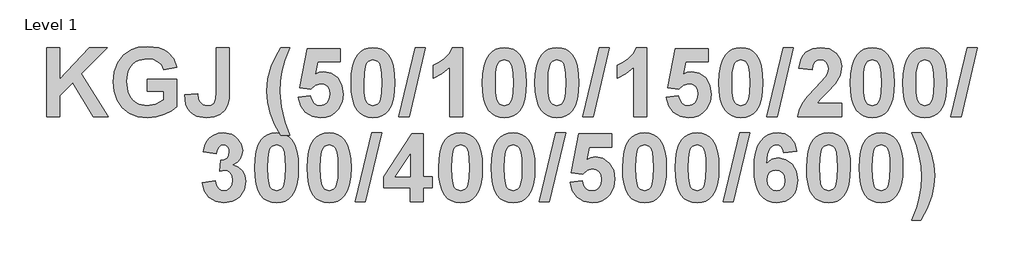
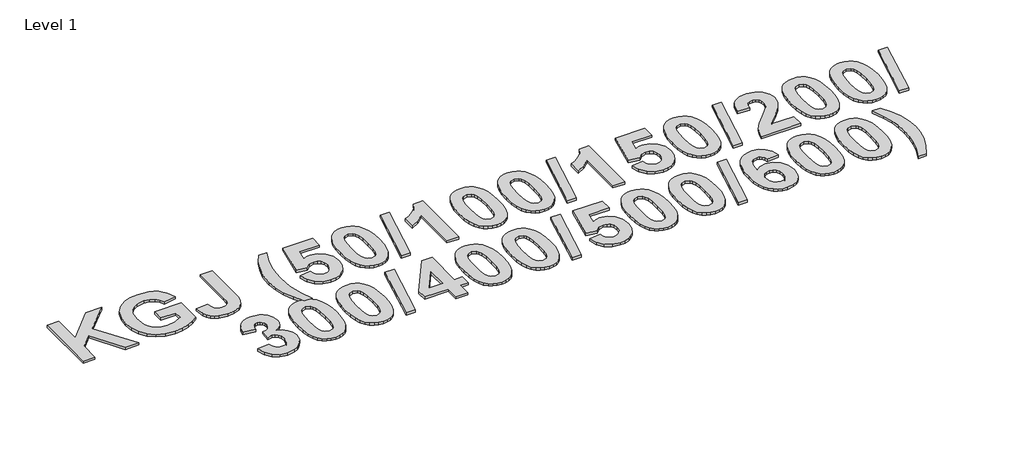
# One storey, part 20 of 42: 1 proxy.
"""IFC4 building model written with IfcOpenShell, lengths in millimetres."""

from ifc_helpers import new_model, si_unit, origin, origin_with_axes, place, context, project, spatial, polyline, outline, extrude, element, save

model = new_model("IFC4")

# Units and contexts
model_context = context("Model", 3, world=origin())
ifc_project = project(units=[si_unit("LENGTHUNIT", "METRE", prefix="MILLI")], contexts=[model_context])

# Site, building, storey
site = spatial("IfcSite", under=ifc_project)
building = spatial("IfcBuilding", under=site)
storey = spatial("IfcBuildingStorey", under=building, Name="Level 1", Elevation=0.0)

# Proxy
placement = place(None, origin())
element("IfcBuildingElementProxy", 1, Name="300mm Arial 2", ObjectType="300mm Arial 2", at=placement, inside=storey, context=model_context, shape_type="SweptSolid", body=[
    extrude(outline(polyline([(-16754.0265891, 14366.2760859), (-16754.0265891, 14621.3409359), (-16705.4428082, 14621.3409359), (-16705.4428082, 14505.0688143), (-16596.0027808, 14621.3409359), (-16529.3266022, 14621.3409359), (-16625.8615628, 14523.9203335), (-16525.2779538, 14366.2760859), (-16582.0855519, 14366.2760859), (-16657.4283684, 14491.9739671), (-16705.4428082, 14443.4534463), (-16705.4428082, 14366.2760859), (-16754.0265891, 14366.2760859)])), origin_with_axes(), (0.0, 0.0, 1.0), 10.0),
    extrude(outline(polyline([(-16381.5509352, 14459.3949994), (-16381.5509352, 14503.930132), (-16272.237428, 14503.930132), (-16272.237428, 14402.2078406), (-16291.7531786, 14387.2863571), (-16318.417324, 14374.2784926), (-16348.8454472, 14365.2402013), (-16379.6531312, 14362.2274375), (-16416.4863428, 14366.4184212), (-16448.2903739, 14378.9913724), (-16473.9423572, 14399.3532272), (-16492.3194253, 14426.9109219), (-16503.3741333, 14459.434537), (-16507.059036, 14494.6941528), (-16502.8917748, 14532.2153182), (-16490.3899913, 14565.3240895), (-16469.8541712, 14592.6287438), (-16441.5847999, 14612.737558), (-16414.0982728, 14622.2265778), (-16380.6020332, 14625.3895843), (-16338.399618, 14620.2813287), (-16321.1829779, 14613.8960092), (-16306.5560493, 14604.9565619), (-16284.6443213, 14580.6172263), (-16272.237428, 14548.4652645), (-16320.821209, 14540.3679677), (-16328.997581, 14557.1714401), (-16342.1398733, 14570.0053393), (-16359.7103748, 14578.1421737), (-16381.1713744, 14580.8544518), (-16412.9754055, 14575.5564158), (-16426.1611891, 14568.9338708), (-16437.5361515, 14559.6623078), (-16446.6970093, 14547.7812643), (-16453.2404791, 14533.330278), (-16458.475255, 14496.718477), (-16453.2721092, 14457.3627677), (-16446.7681769, 14441.9015962), (-16437.6626718, 14429.2515468), (-16426.4458597, 14419.4126195), (-16413.6080068, 14412.3848142), (-16383.0691783, 14406.7625701), (-16349.6361989, 14412.9304329), (-16320.821209, 14427.891454), (-16320.821209, 14459.3949994), (-16381.5509352, 14459.3949994)])), origin_with_axes(), (0.0, 0.0, 1.0), 10.0),
    extrude(outline(polyline([(-16126.4860852, 14621.3409359), (-16077.9023042, 14621.3409359), (-16077.9023042, 14460.0908609), (-16079.3256572, 14432.0982527), (-16083.5957161, 14411.3805597), (-16094.2866783, 14391.358728), (-16111.1771334, 14375.7018455), (-16134.3619716, 14365.5960395), (-16163.936083, 14362.2274375), (-16197.9067736, 14367.6282712), (-16211.570962, 14374.3793134), (-16223.0210458, 14383.8307724), (-16232.0830596, 14395.8956656), (-16238.5830381, 14410.4870103), (-16243.8968892, 14447.2490542), (-16195.3131082, 14451.2977026), (-16193.0831886, 14432.6675939), (-16188.2912336, 14420.4267584), (-16176.8727799, 14410.1786172), (-16160.7098163, 14406.7625701), (-16144.7287256, 14409.2139001), (-16134.2354513, 14416.5678904), (-16128.4234267, 14431.6238017), (-16126.4860852, 14457.1808948), (-16126.4860852, 14621.3409359)])), origin_with_axes(), (0.0, 0.0, 1.0), 10.0),
    extrude(outline(polyline([(-15855.2266415, 14297.4490629), (-15887.6158288, 14297.4490629), (-15910.2866785, 14337.1210729), (-15926.8054803, 14378.327141), (-15936.8875637, 14419.6280993), (-15940.2482582, 14459.5847798), (-15936.1363497, 14506.9824333), (-15923.800624, 14551.7547913), (-15907.6060304, 14588.0344767), (-15887.6158288, 14621.3409359), (-15855.2266415, 14621.3409359), (-15872.7892355, 14574.1014328), (-15883.851851, 14534.4847754), (-15889.7113207, 14497.6041188), (-15891.6644773, 14458.5726177), (-15886.9832275, 14401.92317), (-15874.1414209, 14346.8552256), (-15855.2266415, 14297.4490629)])), origin_with_axes(), (0.0, 0.0, 1.0), 10.0),
    extrude(outline(polyline([(-15822.8374542, 14438.0763351), (-15778.3023217, 14443.2004058), (-15774.1587831, 14428.1286795), (-15765.9033359, 14416.5678904), (-15754.8011829, 14409.2139001), (-15742.1175265, 14406.7625701), (-15727.9235345, 14409.364143), (-15716.0859824, 14417.1688617), (-15708.0914833, 14430.2083563), (-15705.4266503, 14448.5142568), (-15707.9017029, 14465.6735675), (-15715.3268609, 14477.9302179), (-15726.721592, 14485.2842082), (-15741.1053644, 14487.7355383), (-15759.9252535, 14482.6747278), (-15776.6575583, 14467.4922962), (-15818.7888058, 14473.7550493), (-15790.4482669, 14617.2922875), (-15668.9888146, 14617.2922875), (-15668.9888146, 14568.7085066), (-15751.1637253, 14568.7085066), (-15760.9690457, 14522.3388302), (-15745.4861285, 14529.7877107), (-15729.6552806, 14532.2706708), (-15701.5361522, 14526.5219064), (-15678.0350134, 14509.2756131), (-15662.1409053, 14482.8566007), (-15656.8428693, 14449.589679), (-15661.2552635, 14420.6639839), (-15674.492446, 14394.9961856), (-15687.7098597, 14380.6598583), (-15703.2599908, 14370.4196245), (-15721.1428392, 14364.2754843), (-15741.3584049, 14362.2274375), (-15772.3637769, 14367.3673232), (-15797.0589507, 14382.7869802), (-15814.273614, 14406.8890903), (-15822.8374542, 14438.0763351)])), origin_with_axes(), (0.0, 0.0, 1.0), 10.0),
    extrude(outline(polyline([(-15547.5293622, 14621.3409359), (-15530.3977279, 14619.6961725), (-15515.2508801, 14614.7618823), (-15502.088819, 14606.5380652), (-15490.9115446, 14595.0247212), (-15480.2561662, 14576.8967398), (-15472.6451816, 14553.6367802), (-15468.0785909, 14525.2448425), (-15466.5563939, 14491.7209266), (-15468.0864984, 14458.2286407), (-15472.6768117, 14429.8050729), (-15480.3273338, 14406.4502232), (-15491.0380648, 14388.1640914), (-15502.1599867, 14376.8168053), (-15515.2825102, 14368.711601), (-15530.4056354, 14363.8484784), (-15547.5293622, 14362.2274375), (-15564.8369388, 14364.0066287), (-15580.385093, 14369.3442023), (-15594.1738247, 14378.2401583), (-15606.2031341, 14390.6944967), (-15615.9590325, 14407.7154258), (-15622.9275314, 14430.311154), (-15627.1086307, 14458.4816813), (-15628.5023304, 14492.2270076), (-15626.972226, 14525.5532356), (-15622.3819127, 14553.8581907), (-15614.7313906, 14577.1418728), (-15604.0206596, 14595.404282), (-15592.8987377, 14606.7515681), (-15579.7762142, 14614.8567724), (-15564.653089, 14619.7198951), (-15547.5293622, 14621.3409359)]), holes=[polyline([(-15547.5293622, 14576.8058034), (-15563.7239558, 14571.4603223), (-15570.049969, 14563.9877192), (-15574.7312187, 14552.2608724), (-15578.6217168, 14528.1113172), (-15579.9185495, 14491.7209266), (-15578.7640521, 14455.8128945), (-15575.3005599, 14433.2369351), (-15570.0736915, 14419.9839375), (-15563.6290657, 14412.044791), (-15547.5293622, 14406.7625701), (-15531.3347685, 14412.1080512), (-15525.0087554, 14419.5806542), (-15520.3275057, 14431.3075011), (-15516.4370076, 14455.330536), (-15515.1401749, 14491.7209266), (-15516.2946723, 14527.5894211), (-15519.7581645, 14550.173288), (-15524.9850329, 14563.4658232), (-15531.4296587, 14571.4603223), (-15547.5293622, 14576.8058034)])]), origin_with_axes(), (0.0, 0.0, 1.0), 10.0),
    extrude(outline(polyline([(-15451.2474421, 14366.2760859), (-15390.5177159, 14621.3409359), (-15353.1942384, 14621.3409359), (-15413.9239646, 14366.2760859), (-15451.2474421, 14366.2760859)])), origin_with_axes(), (0.0, 0.0, 1.0), 10.0),
    extrude(outline(polyline([(-15215.5401924, 14366.2760859), (-15264.1239733, 14366.2760859), (-15264.1239733, 14548.5917848), (-15292.1798416, 14524.7110851), (-15324.8536995, 14507.9787804), (-15324.8536995, 14556.5625613), (-15305.3853941, 14565.6482977), (-15284.3039553, 14580.3800008), (-15265.8478119, 14599.3975778), (-15254.2553928, 14621.3409359), (-15215.5401924, 14621.3409359), (-15215.5401924, 14366.2760859)])), origin_with_axes(), (0.0, 0.0, 1.0), 10.0),
    extrude(outline(polyline([(-15061.6915527, 14621.3409359), (-15044.5599183, 14619.6961725), (-15029.4130706, 14614.7618823), (-15016.2510095, 14606.5380652), (-15005.0737351, 14595.0247212), (-14994.4183567, 14576.8967398), (-14986.8073721, 14553.6367802), (-14982.2407814, 14525.2448425), (-14980.7185844, 14491.7209266), (-14982.2486889, 14458.2286407), (-14986.8390022, 14429.8050729), (-14994.4895243, 14406.4502232), (-15005.2002553, 14388.1640914), (-15016.3221772, 14376.8168053), (-15029.4447007, 14368.711601), (-15044.5678259, 14363.8484784), (-15061.6915527, 14362.2274375), (-15078.9991293, 14364.0066287), (-15094.5472835, 14369.3442023), (-15108.3360152, 14378.2401583), (-15120.3653246, 14390.6944967), (-15130.121223, 14407.7154258), (-15137.0897219, 14430.311154), (-15141.2708212, 14458.4816813), (-15142.6645209, 14492.2270076), (-15141.1344165, 14525.5532356), (-15136.5441032, 14553.8581907), (-15128.8935811, 14577.1418728), (-15118.1828501, 14595.404282), (-15107.0609282, 14606.7515681), (-15093.9384047, 14614.8567724), (-15078.8152795, 14619.7198951), (-15061.6915527, 14621.3409359)]), holes=[polyline([(-15061.6915527, 14576.8058034), (-15077.8861463, 14571.4603223), (-15084.2121595, 14563.9877192), (-15088.8934092, 14552.2608724), (-15092.7839073, 14528.1113172), (-15094.08074, 14491.7209266), (-15092.9262426, 14455.8128945), (-15089.4627504, 14433.2369351), (-15084.235882, 14419.9839375), (-15077.7912561, 14412.044791), (-15061.6915527, 14406.7625701), (-15045.496959, 14412.1080512), (-15039.1709459, 14419.5806542), (-15034.4896962, 14431.3075011), (-15030.5991981, 14455.330536), (-15029.3023654, 14491.7209266), (-15030.4568628, 14527.5894211), (-15033.920355, 14550.173288), (-15039.1472234, 14563.4658232), (-15045.5918492, 14571.4603223), (-15061.6915527, 14576.8058034)])]), origin_with_axes(), (0.0, 0.0, 1.0), 10.0),
    extrude(outline(polyline([(-14867.3564289, 14621.3409359), (-14850.2247945, 14619.6961725), (-14835.0779468, 14614.7618823), (-14821.9158857, 14606.5380652), (-14810.7386112, 14595.0247212), (-14800.0832329, 14576.8967398), (-14792.4722483, 14553.6367802), (-14787.9056576, 14525.2448425), (-14786.3834606, 14491.7209266), (-14787.9135651, 14458.2286407), (-14792.5038784, 14429.8050729), (-14800.1544005, 14406.4502232), (-14810.8651315, 14388.1640914), (-14821.9870534, 14376.8168053), (-14835.1095769, 14368.711601), (-14850.2327021, 14363.8484784), (-14867.3564289, 14362.2274375), (-14884.6640055, 14364.0066287), (-14900.2121597, 14369.3442023), (-14914.0008914, 14378.2401583), (-14926.0302008, 14390.6944967), (-14935.7860992, 14407.7154258), (-14942.7545981, 14430.311154), (-14946.9356974, 14458.4816813), (-14948.3293971, 14492.2270076), (-14946.7992927, 14525.5532356), (-14942.2089794, 14553.8581907), (-14934.5584573, 14577.1418728), (-14923.8477263, 14595.404282), (-14912.7258044, 14606.7515681), (-14899.6032809, 14614.8567724), (-14884.4801557, 14619.7198951), (-14867.3564289, 14621.3409359)]), holes=[polyline([(-14867.3564289, 14576.8058034), (-14883.5510225, 14571.4603223), (-14889.8770357, 14563.9877192), (-14894.5582854, 14552.2608724), (-14898.4487835, 14528.1113172), (-14899.7456162, 14491.7209266), (-14898.5911188, 14455.8128945), (-14895.1276266, 14433.2369351), (-14889.9007582, 14419.9839375), (-14883.4561323, 14412.044791), (-14867.3564289, 14406.7625701), (-14851.1618352, 14412.1080512), (-14844.8358221, 14419.5806542), (-14840.1545724, 14431.3075011), (-14836.2640743, 14455.330536), (-14834.9672416, 14491.7209266), (-14836.121739, 14527.5894211), (-14839.5852312, 14550.173288), (-14844.8120995, 14563.4658232), (-14851.2567254, 14571.4603223), (-14867.3564289, 14576.8058034)])]), origin_with_axes(), (0.0, 0.0, 1.0), 10.0),
    extrude(outline(polyline([(-14771.0745088, 14366.2760859), (-14710.3447826, 14621.3409359), (-14673.0213051, 14621.3409359), (-14733.7510313, 14366.2760859), (-14771.0745088, 14366.2760859)])), origin_with_axes(), (0.0, 0.0, 1.0), 10.0),
    extrude(outline(polyline([(-14535.3672591, 14366.2760859), (-14583.95104, 14366.2760859), (-14583.95104, 14548.5917848), (-14612.0069083, 14524.7110851), (-14644.6807662, 14507.9787804), (-14644.6807662, 14556.5625613), (-14625.2124608, 14565.6482977), (-14604.1310219, 14580.3800008), (-14585.6748786, 14599.3975778), (-14574.0824595, 14621.3409359), (-14535.3672591, 14621.3409359), (-14535.3672591, 14366.2760859)])), origin_with_axes(), (0.0, 0.0, 1.0), 10.0),
    extrude(outline(polyline([(-14462.4915876, 14438.0763351), (-14417.9564551, 14443.2004058), (-14413.8129165, 14428.1286795), (-14405.5574693, 14416.5678904), (-14394.4553163, 14409.2139001), (-14381.7716599, 14406.7625701), (-14367.5776679, 14409.364143), (-14355.7401158, 14417.1688617), (-14347.7456167, 14430.2083563), (-14345.0807837, 14448.5142568), (-14347.5558363, 14465.6735675), (-14354.9809942, 14477.9302179), (-14366.3757254, 14485.2842082), (-14380.7594978, 14487.7355383), (-14399.5793869, 14482.6747278), (-14416.3116917, 14467.4922962), (-14458.4429392, 14473.7550493), (-14430.1024003, 14617.2922875), (-14308.642948, 14617.2922875), (-14308.642948, 14568.7085066), (-14390.8178587, 14568.7085066), (-14400.6231791, 14522.3388302), (-14385.1402619, 14529.7877107), (-14369.309414, 14532.2706708), (-14341.1902856, 14526.5219064), (-14317.6891468, 14509.2756131), (-14301.7950387, 14482.8566007), (-14296.4970027, 14449.589679), (-14300.9093969, 14420.6639839), (-14314.1465794, 14394.9961856), (-14327.3639931, 14380.6598583), (-14342.9141242, 14370.4196245), (-14360.7969726, 14364.2754843), (-14381.0125383, 14362.2274375), (-14412.0179103, 14367.3673232), (-14436.7130841, 14382.7869802), (-14453.9277473, 14406.8890903), (-14462.4915876, 14438.0763351)])), origin_with_axes(), (0.0, 0.0, 1.0), 10.0),
    extrude(outline(polyline([(-14187.1834956, 14621.3409359), (-14170.0518612, 14619.6961725), (-14154.9050135, 14614.7618823), (-14141.7429524, 14606.5380652), (-14130.5656779, 14595.0247212), (-14119.9102996, 14576.8967398), (-14112.299315, 14553.6367802), (-14107.7327243, 14525.2448425), (-14106.2105273, 14491.7209266), (-14107.7406318, 14458.2286407), (-14112.3309451, 14429.8050729), (-14119.9814672, 14406.4502232), (-14130.6921982, 14388.1640914), (-14141.8141201, 14376.8168053), (-14154.9366436, 14368.711601), (-14170.0597688, 14363.8484784), (-14187.1834956, 14362.2274375), (-14204.4910722, 14364.0066287), (-14220.0392264, 14369.3442023), (-14233.8279581, 14378.2401583), (-14245.8572675, 14390.6944967), (-14255.6131659, 14407.7154258), (-14262.5816648, 14430.311154), (-14266.7627641, 14458.4816813), (-14268.1564638, 14492.2270076), (-14266.6263594, 14525.5532356), (-14262.0360461, 14553.8581907), (-14254.385524, 14577.1418728), (-14243.674793, 14595.404282), (-14232.5528711, 14606.7515681), (-14219.4303476, 14614.8567724), (-14204.3072224, 14619.7198951), (-14187.1834956, 14621.3409359)]), holes=[polyline([(-14187.1834956, 14576.8058034), (-14203.3780892, 14571.4603223), (-14209.7041024, 14563.9877192), (-14214.3853521, 14552.2608724), (-14218.2758502, 14528.1113172), (-14219.5726829, 14491.7209266), (-14218.4181855, 14455.8128945), (-14214.9546933, 14433.2369351), (-14209.7278249, 14419.9839375), (-14203.283199, 14412.044791), (-14187.1834956, 14406.7625701), (-14170.9889019, 14412.1080512), (-14164.6628888, 14419.5806542), (-14159.9816391, 14431.3075011), (-14156.091141, 14455.330536), (-14154.7943083, 14491.7209266), (-14155.9488057, 14527.5894211), (-14159.4122979, 14550.173288), (-14164.6391662, 14563.4658232), (-14171.0837921, 14571.4603223), (-14187.1834956, 14576.8058034)])]), origin_with_axes(), (0.0, 0.0, 1.0), 10.0),
    extrude(outline(polyline([(-14090.9015755, 14366.2760859), (-14030.1718493, 14621.3409359), (-13992.8483718, 14621.3409359), (-14053.578098, 14366.2760859), (-14090.9015755, 14366.2760859)])), origin_with_axes(), (0.0, 0.0, 1.0), 10.0),
    extrude(outline(polyline([(-13814.7078416, 14414.8598669), (-13814.7078416, 14366.2760859), (-13976.6537781, 14366.2760859), (-13971.4822624, 14390.7814793), (-13961.1550459, 14413.942595), (-13941.9714111, 14440.1243819), (-13910.2306401, 14473.6917891), (-13872.654122, 14514.4313138), (-13865.6322474, 14529.1392943), (-13863.2916226, 14543.6574945), (-13865.2605942, 14557.8040414), (-13871.167509, 14568.2340556), (-13880.5379159, 14574.6628664), (-13892.8973641, 14576.8058034), (-13905.1698296, 14574.6944965), (-13914.6588493, 14568.3605758), (-13921.0481226, 14557.13981), (-13924.0213488, 14540.3679677), (-13972.6051297, 14544.7961769), (-13964.0017518, 14579.9450874), (-13956.378906, 14593.1842468), (-13946.5419556, 14603.5332089), (-13921.9179494, 14616.8890042), (-13891.8219419, 14621.3409359), (-13859.6857951, 14616.3512931), (-13835.2673844, 14601.3823644), (-13819.8477273, 14578.9961854), (-13814.7078416, 14551.7547913), (-13820.3379933, 14519.6186446), (-13838.1773504, 14487.6722782), (-13868.3840632, 14455.7891719), (-13896.1236308, 14428.1444945), (-13905.2330897, 14414.8598669), (-13814.7078416, 14414.8598669)])), origin_with_axes(), (0.0, 0.0, 1.0), 10.0),
    extrude(outline(polyline([(-13701.3456861, 14621.3409359), (-13684.2140517, 14619.6961725), (-13669.067204, 14614.7618823), (-13655.9051429, 14606.5380652), (-13644.7278684, 14595.0247212), (-13634.0724901, 14576.8967398), (-13626.4615055, 14553.6367802), (-13621.8949147, 14525.2448425), (-13620.3727178, 14491.7209266), (-13621.9028223, 14458.2286407), (-13626.4931356, 14429.8050729), (-13634.1436577, 14406.4502232), (-13644.8543887, 14388.1640914), (-13655.9763106, 14376.8168053), (-13669.0988341, 14368.711601), (-13684.2219593, 14363.8484784), (-13701.3456861, 14362.2274375), (-13718.6532627, 14364.0066287), (-13734.2014169, 14369.3442023), (-13747.9901486, 14378.2401583), (-13760.019458, 14390.6944967), (-13769.7753564, 14407.7154258), (-13776.7438553, 14430.311154), (-13780.9249546, 14458.4816813), (-13782.3186543, 14492.2270076), (-13780.7885499, 14525.5532356), (-13776.1982366, 14553.8581907), (-13768.5477145, 14577.1418728), (-13757.8369835, 14595.404282), (-13746.7150616, 14606.7515681), (-13733.5925381, 14614.8567724), (-13718.4694129, 14619.7198951), (-13701.3456861, 14621.3409359)]), holes=[polyline([(-13701.3456861, 14576.8058034), (-13717.5402797, 14571.4603223), (-13723.8662929, 14563.9877192), (-13728.5475426, 14552.2608724), (-13732.4380407, 14528.1113172), (-13733.7348734, 14491.7209266), (-13732.580376, 14455.8128945), (-13729.1168838, 14433.2369351), (-13723.8900154, 14419.9839375), (-13717.4453895, 14412.044791), (-13701.3456861, 14406.7625701), (-13685.1510924, 14412.1080512), (-13678.8250793, 14419.5806542), (-13674.1438296, 14431.3075011), (-13670.2533315, 14455.330536), (-13668.9564988, 14491.7209266), (-13670.1109962, 14527.5894211), (-13673.5744884, 14550.173288), (-13678.8013567, 14563.4658232), (-13685.2459826, 14571.4603223), (-13701.3456861, 14576.8058034)])]), origin_with_axes(), (0.0, 0.0, 1.0), 10.0),
    extrude(outline(polyline([(-13507.0105623, 14621.3409359), (-13489.8789279, 14619.6961725), (-13474.7320802, 14614.7618823), (-13461.5700191, 14606.5380652), (-13450.3927446, 14595.0247212), (-13439.7373662, 14576.8967398), (-13432.1263817, 14553.6367802), (-13427.5597909, 14525.2448425), (-13426.037594, 14491.7209266), (-13427.5676985, 14458.2286407), (-13432.1580118, 14429.8050729), (-13439.8085339, 14406.4502232), (-13450.5192649, 14388.1640914), (-13461.6411868, 14376.8168053), (-13474.7637103, 14368.711601), (-13489.8868355, 14363.8484784), (-13507.0105623, 14362.2274375), (-13524.3181389, 14364.0066287), (-13539.8662931, 14369.3442023), (-13553.6550248, 14378.2401583), (-13565.6843342, 14390.6944967), (-13575.4402326, 14407.7154258), (-13582.4087315, 14430.311154), (-13586.5898308, 14458.4816813), (-13587.9835305, 14492.2270076), (-13586.4534261, 14525.5532356), (-13581.8631128, 14553.8581907), (-13574.2125907, 14577.1418728), (-13563.5018597, 14595.404282), (-13552.3799378, 14606.7515681), (-13539.2574143, 14614.8567724), (-13524.1342891, 14619.7198951), (-13507.0105623, 14621.3409359)]), holes=[polyline([(-13507.0105623, 14576.8058034), (-13523.2051559, 14571.4603223), (-13529.5311691, 14563.9877192), (-13534.2124188, 14552.2608724), (-13538.1029169, 14528.1113172), (-13539.3997496, 14491.7209266), (-13538.2452522, 14455.8128945), (-13534.78176, 14433.2369351), (-13529.5548916, 14419.9839375), (-13523.1102657, 14412.044791), (-13507.0105623, 14406.7625701), (-13490.8159686, 14412.1080512), (-13484.4899555, 14419.5806542), (-13479.8087058, 14431.3075011), (-13475.9182077, 14455.330536), (-13474.621375, 14491.7209266), (-13475.7758724, 14527.5894211), (-13479.2393646, 14550.173288), (-13484.4662329, 14563.4658232), (-13490.9108588, 14571.4603223), (-13507.0105623, 14576.8058034)])]), origin_with_axes(), (0.0, 0.0, 1.0), 10.0),
    extrude(outline(polyline([(-13410.7286422, 14366.2760859), (-13349.998916, 14621.3409359), (-13312.6754385, 14621.3409359), (-13373.4051647, 14366.2760859), (-13410.7286422, 14366.2760859)])), origin_with_axes(), (0.0, 0.0, 1.0), 10.0),
    extrude(outline(polyline([(-16179.1185146, 14122.7918795), (-16130.5347336, 14128.4220312), (-16126.7865708, 14112.7967787), (-16119.5907309, 14101.3466949), (-16109.7379654, 14094.3248203), (-16098.019026, 14091.9841955), (-16085.4460749, 14094.6648435), (-16075.0555983, 14102.7067877), (-16068.0811688, 14115.2876464), (-16065.756359, 14131.5850377), (-16067.8834809, 14147.0046948), (-16074.2648467, 14158.8501544), (-16083.7143288, 14166.3939251), (-16095.0457999, 14168.9085153), (-16114.34014, 14165.3026878), (-16110.1017111, 14205.346351), (-16096.2714649, 14207.0860046), (-16086.1577514, 14213.3171276), (-16079.966166, 14223.1857081), (-16077.9023042, 14235.8377344), (-16079.4442699, 14246.5840492), (-16084.0701671, 14254.910664), (-16091.2580995, 14260.2482376), (-16100.4861712, 14262.0274288), (-16109.8723932, 14259.963567), (-16117.7878171, 14253.7719816), (-16123.5523966, 14243.610823), (-16126.4860852, 14229.6382415), (-16175.0698661, 14236.9131566), (-16169.5108821, 14258.6509193), (-16161.6903483, 14275.5334668), (-16150.9677561, 14288.4464412), (-16136.7025964, 14298.2754841), (-16119.7093436, 14304.490792), (-16100.8024718, 14306.5625613), (-16070.1529381, 14300.8217044), (-16057.3664841, 14293.6456332), (-16046.2722385, 14283.5991336), (-16033.5569521, 14263.577302), (-16029.3185233, 14241.0883253), (-16031.5919343, 14225.1428184), (-16038.4121672, 14210.8974275), (-16049.7792221, 14198.3521527), (-16065.6930989, 14187.5069939), (-16045.8294176, 14179.9553157), (-16030.3939455, 14166.6627806), (-16020.4779199, 14148.799701), (-16017.1725781, 14127.5363893), (-16023.0320477, 14096.7682429), (-16040.6104568, 14070.8869416), (-16053.0470032, 14060.6328697), (-16066.9187639, 14053.3085326), (-16098.967928, 14047.4490629), (-16129.2299934, 14052.6601162), (-16153.846092, 14068.2932762), (-16171.0607553, 14092.3400337), (-16179.1185146, 14122.7918795)])), origin_with_axes(), (0.0, 0.0, 1.0), 10.0),
    extrude(outline(polyline([(-15903.8104225, 14306.5625613), (-15886.6787882, 14304.9177979), (-15871.5319404, 14299.9835076), (-15858.3698793, 14291.7596906), (-15847.1926049, 14280.2463466), (-15836.5372265, 14262.1183652), (-15828.9262419, 14238.8584056), (-15824.3596512, 14210.4664679), (-15822.8374542, 14176.942552), (-15824.3675587, 14143.4502661), (-15828.957872, 14115.0266983), (-15836.6083941, 14091.6718486), (-15847.3191251, 14073.3857168), (-15858.441047, 14062.0384307), (-15871.5635705, 14053.9332264), (-15886.6866957, 14049.0701038), (-15903.8104225, 14047.4490629), (-15921.1179991, 14049.2282541), (-15936.6661533, 14054.5658277), (-15950.454885, 14063.4617837), (-15962.4841944, 14075.9161221), (-15972.2400928, 14092.9370512), (-15979.2085917, 14115.5327794), (-15983.389691, 14143.7033067), (-15984.7833908, 14177.448633), (-15983.2532863, 14210.774861), (-15978.662973, 14239.0798161), (-15971.0124509, 14262.3634982), (-15960.3017199, 14280.6259074), (-15949.179798, 14291.9731935), (-15936.0572745, 14300.0783978), (-15920.9341493, 14304.9415205), (-15903.8104225, 14306.5625613)]), holes=[polyline([(-15903.8104225, 14262.0274288), (-15920.0050161, 14256.6819477), (-15926.3310293, 14249.2093446), (-15931.012279, 14237.4824978), (-15934.9027771, 14213.3329426), (-15936.1996098, 14176.942552), (-15935.0451124, 14141.0345199), (-15931.5816202, 14118.4585605), (-15926.3547518, 14105.2055629), (-15919.910126, 14097.2664164), (-15903.8104225, 14091.9841955), (-15887.6158288, 14097.3296766), (-15881.2898157, 14104.8022796), (-15876.608566, 14116.5291265), (-15872.7180679, 14140.5521614), (-15871.4212352, 14176.942552), (-15872.5757326, 14212.8110465), (-15876.0392248, 14235.3949134), (-15881.2660932, 14248.6874486), (-15887.710719, 14256.6819477), (-15903.8104225, 14262.0274288)])]), origin_with_axes(), (0.0, 0.0, 1.0), 10.0),
    extrude(outline(polyline([(-15709.4752987, 14306.5625613), (-15692.3436644, 14304.9177979), (-15677.1968166, 14299.9835076), (-15664.0347555, 14291.7596906), (-15652.8574811, 14280.2463466), (-15642.2021027, 14262.1183652), (-15634.5911181, 14238.8584056), (-15630.0245274, 14210.4664679), (-15628.5023304, 14176.942552), (-15630.0324349, 14143.4502661), (-15634.6227482, 14115.0266983), (-15642.2732703, 14091.6718486), (-15652.9840013, 14073.3857168), (-15664.1059232, 14062.0384307), (-15677.2284467, 14053.9332264), (-15692.3515719, 14049.0701038), (-15709.4752987, 14047.4490629), (-15726.7828753, 14049.2282541), (-15742.3310295, 14054.5658277), (-15756.1197612, 14063.4617837), (-15768.1490706, 14075.9161221), (-15777.904969, 14092.9370512), (-15784.8734679, 14115.5327794), (-15789.0545672, 14143.7033067), (-15790.4482669, 14177.448633), (-15788.9181625, 14210.774861), (-15784.3278492, 14239.0798161), (-15776.6773271, 14262.3634982), (-15765.9665961, 14280.6259074), (-15754.8446742, 14291.9731935), (-15741.7221507, 14300.0783978), (-15726.5990255, 14304.9415205), (-15709.4752987, 14306.5625613)]), holes=[polyline([(-15709.4752987, 14262.0274288), (-15725.6698923, 14256.6819477), (-15731.9959055, 14249.2093446), (-15736.6771552, 14237.4824978), (-15740.5676533, 14213.3329426), (-15741.864486, 14176.942552), (-15740.7099886, 14141.0345199), (-15737.2464964, 14118.4585605), (-15732.019628, 14105.2055629), (-15725.5750022, 14097.2664164), (-15709.4752987, 14091.9841955), (-15693.280705, 14097.3296766), (-15686.9546919, 14104.8022796), (-15682.2734422, 14116.5291265), (-15678.3829441, 14140.5521614), (-15677.0861114, 14176.942552), (-15678.2406088, 14212.8110465), (-15681.704101, 14235.3949134), (-15686.9309694, 14248.6874486), (-15693.3755952, 14256.6819477), (-15709.4752987, 14262.0274288)])]), origin_with_axes(), (0.0, 0.0, 1.0), 10.0),
    extrude(outline(polyline([(-15613.1933786, 14051.4977113), (-15552.4636525, 14306.5625613), (-15515.1401749, 14306.5625613), (-15575.8699011, 14051.4977113), (-15613.1933786, 14051.4977113)])), origin_with_axes(), (0.0, 0.0, 1.0), 10.0),
    extrude(outline(polyline([(-15409.8753162, 14051.4977113), (-15409.8753162, 14104.1301407), (-15507.0428781, 14104.1301407), (-15507.0428781, 14144.4268444), (-15403.4227828, 14302.5139129), (-15361.2915352, 14302.5139129), (-15361.2915352, 14144.6166248), (-15328.9023479, 14144.6166248), (-15328.9023479, 14104.1301407), (-15361.2915352, 14104.1301407), (-15361.2915352, 14051.4977113), (-15409.8753162, 14051.4977113)]), holes=[polyline([(-15409.8753162, 14144.6166248), (-15409.8753162, 14227.487397), (-15464.152509, 14144.6166248), (-15409.8753162, 14144.6166248)])]), origin_with_axes(), (0.0, 0.0, 1.0), 10.0),
    extrude(outline(polyline([(-15223.6374892, 14306.5625613), (-15206.5058548, 14304.9177979), (-15191.3590071, 14299.9835076), (-15178.196946, 14291.7596906), (-15167.0196716, 14280.2463466), (-15156.3642932, 14262.1183652), (-15148.7533086, 14238.8584056), (-15144.1867179, 14210.4664679), (-15142.6645209, 14176.942552), (-15144.1946254, 14143.4502661), (-15148.7849387, 14115.0266983), (-15156.4354608, 14091.6718486), (-15167.1461918, 14073.3857168), (-15178.2681137, 14062.0384307), (-15191.3906372, 14053.9332264), (-15206.5137624, 14049.0701038), (-15223.6374892, 14047.4490629), (-15240.9450658, 14049.2282541), (-15256.49322, 14054.5658277), (-15270.2819517, 14063.4617837), (-15282.3112611, 14075.9161221), (-15292.0671595, 14092.9370512), (-15299.0356584, 14115.5327794), (-15303.2167577, 14143.7033067), (-15304.6104574, 14177.448633), (-15303.080353, 14210.774861), (-15298.4900397, 14239.0798161), (-15290.8395176, 14262.3634982), (-15280.1287866, 14280.6259074), (-15269.0068647, 14291.9731935), (-15255.8843412, 14300.0783978), (-15240.761216, 14304.9415205), (-15223.6374892, 14306.5625613)]), holes=[polyline([(-15223.6374892, 14262.0274288), (-15239.8320828, 14256.6819477), (-15246.158096, 14249.2093446), (-15250.8393457, 14237.4824978), (-15254.7298438, 14213.3329426), (-15256.0266765, 14176.942552), (-15254.8721791, 14141.0345199), (-15251.4086869, 14118.4585605), (-15246.1818185, 14105.2055629), (-15239.7371926, 14097.2664164), (-15223.6374892, 14091.9841955), (-15207.4428955, 14097.3296766), (-15201.1168824, 14104.8022796), (-15196.4356327, 14116.5291265), (-15192.5451346, 14140.5521614), (-15191.2483019, 14176.942552), (-15192.4027993, 14212.8110465), (-15195.8662915, 14235.3949134), (-15201.0931599, 14248.6874486), (-15207.5377857, 14256.6819477), (-15223.6374892, 14262.0274288)])]), origin_with_axes(), (0.0, 0.0, 1.0), 10.0),
    extrude(outline(polyline([(-15029.3023654, 14306.5625613), (-15012.170731, 14304.9177979), (-14997.0238833, 14299.9835076), (-14983.8618222, 14291.7596906), (-14972.6845477, 14280.2463466), (-14962.0291694, 14262.1183652), (-14954.4181848, 14238.8584056), (-14949.8515941, 14210.4664679), (-14948.3293971, 14176.942552), (-14949.8595016, 14143.4502661), (-14954.4498149, 14115.0266983), (-14962.100337, 14091.6718486), (-14972.811068, 14073.3857168), (-14983.9329899, 14062.0384307), (-14997.0555134, 14053.9332264), (-15012.1786386, 14049.0701038), (-15029.3023654, 14047.4490629), (-15046.609942, 14049.2282541), (-15062.1580962, 14054.5658277), (-15075.9468279, 14063.4617837), (-15087.9761373, 14075.9161221), (-15097.7320357, 14092.9370512), (-15104.7005346, 14115.5327794), (-15108.8816339, 14143.7033067), (-15110.2753336, 14177.448633), (-15108.7452292, 14210.774861), (-15104.1549159, 14239.0798161), (-15096.5043938, 14262.3634982), (-15085.7936628, 14280.6259074), (-15074.6717409, 14291.9731935), (-15061.5492174, 14300.0783978), (-15046.4260922, 14304.9415205), (-15029.3023654, 14306.5625613)]), holes=[polyline([(-15029.3023654, 14262.0274288), (-15045.496959, 14256.6819477), (-15051.8229722, 14249.2093446), (-15056.5042219, 14237.4824978), (-15060.39472, 14213.3329426), (-15061.6915527, 14176.942552), (-15060.5370553, 14141.0345199), (-15057.0735631, 14118.4585605), (-15051.8466947, 14105.2055629), (-15045.4020688, 14097.2664164), (-15029.3023654, 14091.9841955), (-15013.1077717, 14097.3296766), (-15006.7817586, 14104.8022796), (-15002.1005089, 14116.5291265), (-14998.2100108, 14140.5521614), (-14996.9131781, 14176.942552), (-14998.0676755, 14212.8110465), (-15001.5311677, 14235.3949134), (-15006.758036, 14248.6874486), (-15013.2026619, 14256.6819477), (-15029.3023654, 14262.0274288)])]), origin_with_axes(), (0.0, 0.0, 1.0), 10.0),
    extrude(outline(polyline([(-14933.0204453, 14051.4977113), (-14872.2907191, 14306.5625613), (-14834.9672416, 14306.5625613), (-14895.6969678, 14051.4977113), (-14933.0204453, 14051.4977113)])), origin_with_axes(), (0.0, 0.0, 1.0), 10.0),
    extrude(outline(polyline([(-14818.7726479, 14123.2979605), (-14774.2375154, 14128.4220312), (-14770.0939768, 14113.3503049), (-14761.8385296, 14101.7895158), (-14750.7363766, 14094.4355255), (-14738.0527202, 14091.9841955), (-14723.8587282, 14094.5857684), (-14712.0211761, 14102.3904871), (-14704.026677, 14115.4299817), (-14701.361844, 14133.7358822), (-14703.8368966, 14150.8951929), (-14711.2620546, 14163.1518433), (-14722.6567857, 14170.5058336), (-14737.0405581, 14172.9571637), (-14755.8604472, 14167.8963532), (-14772.592752, 14152.7139216), (-14814.7239995, 14158.9766747), (-14786.3834606, 14302.5139129), (-14664.9240083, 14302.5139129), (-14664.9240083, 14253.930132), (-14747.098919, 14253.930132), (-14756.9042394, 14207.5604556), (-14741.4213222, 14215.0093361), (-14725.5904743, 14217.4922962), (-14697.4713459, 14211.7435318), (-14673.9702071, 14194.4972385), (-14658.076099, 14168.0782261), (-14652.778063, 14134.8113044), (-14657.1904572, 14105.8856093), (-14670.4276397, 14080.217811), (-14683.6450534, 14065.8814837), (-14699.1951845, 14055.6412499), (-14717.0780329, 14049.4971097), (-14737.2935986, 14047.4490629), (-14768.2989706, 14052.5889486), (-14792.9941444, 14068.0086056), (-14810.2088076, 14092.1107157), (-14818.7726479, 14123.2979605)])), origin_with_axes(), (0.0, 0.0, 1.0), 10.0),
    extrude(outline(polyline([(-14543.4645559, 14306.5625613), (-14526.3329215, 14304.9177979), (-14511.1860738, 14299.9835076), (-14498.0240127, 14291.7596906), (-14486.8467382, 14280.2463466), (-14476.1913599, 14262.1183652), (-14468.5803753, 14238.8584056), (-14464.0137846, 14210.4664679), (-14462.4915876, 14176.942552), (-14464.0216921, 14143.4502661), (-14468.6120054, 14115.0266983), (-14476.2625275, 14091.6718486), (-14486.9732585, 14073.3857168), (-14498.0951804, 14062.0384307), (-14511.2177039, 14053.9332264), (-14526.3408291, 14049.0701038), (-14543.4645559, 14047.4490629), (-14560.7721325, 14049.2282541), (-14576.3202867, 14054.5658277), (-14590.1090184, 14063.4617837), (-14602.1383278, 14075.9161221), (-14611.8942262, 14092.9370512), (-14618.8627251, 14115.5327794), (-14623.0438244, 14143.7033067), (-14624.4375241, 14177.448633), (-14622.9074197, 14210.774861), (-14618.3171064, 14239.0798161), (-14610.6665843, 14262.3634982), (-14599.9558533, 14280.6259074), (-14588.8339314, 14291.9731935), (-14575.7114079, 14300.0783978), (-14560.5882827, 14304.9415205), (-14543.4645559, 14306.5625613)]), holes=[polyline([(-14543.4645559, 14262.0274288), (-14559.6591495, 14256.6819477), (-14565.9851627, 14249.2093446), (-14570.6664124, 14237.4824978), (-14574.5569105, 14213.3329426), (-14575.8537432, 14176.942552), (-14574.6992458, 14141.0345199), (-14571.2357536, 14118.4585605), (-14566.0088852, 14105.2055629), (-14559.5642593, 14097.2664164), (-14543.4645559, 14091.9841955), (-14527.2699622, 14097.3296766), (-14520.9439491, 14104.8022796), (-14516.2626994, 14116.5291265), (-14512.3722013, 14140.5521614), (-14511.0753686, 14176.942552), (-14512.229866, 14212.8110465), (-14515.6933582, 14235.3949134), (-14520.9202265, 14248.6874486), (-14527.3648524, 14256.6819477), (-14543.4645559, 14262.0274288)])]), origin_with_axes(), (0.0, 0.0, 1.0), 10.0),
    extrude(outline(polyline([(-14349.1294321, 14306.5625613), (-14331.9977977, 14304.9177979), (-14316.85095, 14299.9835076), (-14303.6888889, 14291.7596906), (-14292.5116144, 14280.2463466), (-14281.8562361, 14262.1183652), (-14274.2452515, 14238.8584056), (-14269.6786608, 14210.4664679), (-14268.1564638, 14176.942552), (-14269.6865683, 14143.4502661), (-14274.2768816, 14115.0266983), (-14281.9274037, 14091.6718486), (-14292.6381347, 14073.3857168), (-14303.7600566, 14062.0384307), (-14316.8825801, 14053.9332264), (-14332.0057053, 14049.0701038), (-14349.1294321, 14047.4490629), (-14366.4370087, 14049.2282541), (-14381.9851629, 14054.5658277), (-14395.7738946, 14063.4617837), (-14407.803204, 14075.9161221), (-14417.5591024, 14092.9370512), (-14424.5276013, 14115.5327794), (-14428.7087006, 14143.7033067), (-14430.1024003, 14177.448633), (-14428.5722959, 14210.774861), (-14423.9819826, 14239.0798161), (-14416.3314605, 14262.3634982), (-14405.6207295, 14280.6259074), (-14394.4988076, 14291.9731935), (-14381.3762841, 14300.0783978), (-14366.2531589, 14304.9415205), (-14349.1294321, 14306.5625613)]), holes=[polyline([(-14349.1294321, 14262.0274288), (-14365.3240257, 14256.6819477), (-14371.6500389, 14249.2093446), (-14376.3312886, 14237.4824978), (-14380.2217867, 14213.3329426), (-14381.5186194, 14176.942552), (-14380.364122, 14141.0345199), (-14376.9006298, 14118.4585605), (-14371.6737614, 14105.2055629), (-14365.2291355, 14097.2664164), (-14349.1294321, 14091.9841955), (-14332.9348384, 14097.3296766), (-14326.6088253, 14104.8022796), (-14321.9275756, 14116.5291265), (-14318.0370775, 14140.5521614), (-14316.7402448, 14176.942552), (-14317.8947422, 14212.8110465), (-14321.3582344, 14235.3949134), (-14326.5851027, 14248.6874486), (-14333.0297286, 14256.6819477), (-14349.1294321, 14262.0274288)])]), origin_with_axes(), (0.0, 0.0, 1.0), 10.0),
    extrude(outline(polyline([(-14252.847512, 14051.4977113), (-14192.1177858, 14306.5625613), (-14154.7943083, 14306.5625613), (-14215.5240345, 14051.4977113), (-14252.847512, 14051.4977113)])), origin_with_axes(), (0.0, 0.0, 1.0), 10.0),
    extrude(outline(polyline([(-13980.7024265, 14238.8742207), (-14029.2862075, 14233.6868899), (-14032.2594337, 14246.2835636), (-14037.8895854, 14255.1004444), (-14045.891992, 14260.2956827), (-14055.981983, 14262.0274288), (-14069.5829112, 14258.6667343), (-14080.9064748, 14248.5846508), (-14089.209367, 14227.7483451), (-14093.7482814, 14192.1249835), (-14073.7264498, 14208.1139818), (-14049.3396692, 14213.4436478), (-14021.5131188, 14207.750236), (-13998.0040725, 14190.6700005), (-13981.9913517, 14164.5910113), (-13976.6537781, 14131.9013384), (-13982.1099645, 14097.4641043), (-13988.9301974, 14083.0744013), (-13998.4785235, 14070.570641), (-14010.1697865, 14060.4549506), (-14023.4188303, 14053.2294574), (-14054.5902601, 14047.4490629), (-14072.121224, 14049.3152368), (-14088.0232395, 14054.9137584), (-14102.2963067, 14064.2446278), (-14114.9404255, 14077.307845), (-14125.2913645, 14094.6213522), (-14132.6848923, 14116.7030918), (-14137.1210091, 14143.5530639), (-14138.5997146, 14175.1712683), (-14137.0557721, 14207.6237157), (-14132.4239443, 14235.205133), (-14124.7042314, 14257.9155202), (-14113.8966333, 14275.7548773), (-14100.6218901, 14289.2332391), (-14085.5007418, 14298.8606403), (-14068.5331884, 14304.6370811), (-14049.71923, 14306.5625613), (-14024.3993623, 14302.2292423), (-14003.8556347, 14289.2292853), (-13988.9895038, 14267.9738811), (-13980.7024265, 14238.8742207)]), holes=[polyline([(-14090.0159337, 14132.9767606), (-14087.3906382, 14115.5565019), (-14079.5147519, 14102.6435276), (-14068.2702635, 14094.6490285), (-14055.539162, 14091.9841955), (-14043.6462573, 14094.16667), (-14033.9041971, 14100.7140936), (-14027.4042186, 14112.2432526), (-14025.2375591, 14129.3709331), (-14027.5702764, 14147.1233075), (-14034.5684285, 14159.3878655), (-14045.0617028, 14166.5283528), (-14057.8797869, 14168.9085153), (-14070.3183103, 14166.6311506), (-14080.6850643, 14159.7990564), (-14087.6832163, 14148.538753), (-14090.0159337, 14132.9767606)])]), origin_with_axes(), (0.0, 0.0, 1.0), 10.0),
    extrude(outline(polyline([(-13863.2916226, 14306.5625613), (-13846.1599882, 14304.9177979), (-13831.0131405, 14299.9835076), (-13817.8510794, 14291.7596906), (-13806.6738049, 14280.2463466), (-13796.0184266, 14262.1183652), (-13788.407442, 14238.8584056), (-13783.8408512, 14210.4664679), (-13782.3186543, 14176.942552), (-13783.8487588, 14143.4502661), (-13788.4390721, 14115.0266983), (-13796.0895942, 14091.6718486), (-13806.8003252, 14073.3857168), (-13817.9222471, 14062.0384307), (-13831.0447706, 14053.9332264), (-13846.1678958, 14049.0701038), (-13863.2916226, 14047.4490629), (-13880.5991992, 14049.2282541), (-13896.1473534, 14054.5658277), (-13909.9360851, 14063.4617837), (-13921.9653945, 14075.9161221), (-13931.7212929, 14092.9370512), (-13938.6897918, 14115.5327794), (-13942.8708911, 14143.7033067), (-13944.2645908, 14177.448633), (-13942.7344864, 14210.774861), (-13938.1441731, 14239.0798161), (-13930.493651, 14262.3634982), (-13919.78292, 14280.6259074), (-13908.6609981, 14291.9731935), (-13895.5384746, 14300.0783978), (-13880.4153494, 14304.9415205), (-13863.2916226, 14306.5625613)]), holes=[polyline([(-13863.2916226, 14262.0274288), (-13879.4862162, 14256.6819477), (-13885.8122294, 14249.2093446), (-13890.4934791, 14237.4824978), (-13894.3839772, 14213.3329426), (-13895.6808099, 14176.942552), (-13894.5263125, 14141.0345199), (-13891.0628203, 14118.4585605), (-13885.8359519, 14105.2055629), (-13879.391326, 14097.2664164), (-13863.2916226, 14091.9841955), (-13847.0970289, 14097.3296766), (-13840.7710158, 14104.8022796), (-13836.0897661, 14116.5291265), (-13832.199268, 14140.5521614), (-13830.9024353, 14176.942552), (-13832.0569327, 14212.8110465), (-13835.5204249, 14235.3949134), (-13840.7472932, 14248.6874486), (-13847.1919191, 14256.6819477), (-13863.2916226, 14262.0274288)])]), origin_with_axes(), (0.0, 0.0, 1.0), 10.0),
    extrude(outline(polyline([(-13668.9564988, 14306.5625613), (-13651.8248644, 14304.9177979), (-13636.6780167, 14299.9835076), (-13623.5159556, 14291.7596906), (-13612.3386811, 14280.2463466), (-13601.6833028, 14262.1183652), (-13594.0723182, 14238.8584056), (-13589.5057274, 14210.4664679), (-13587.9835305, 14176.942552), (-13589.513635, 14143.4502661), (-13594.1039483, 14115.0266983), (-13601.7544704, 14091.6718486), (-13612.4652014, 14073.3857168), (-13623.5871233, 14062.0384307), (-13636.7096468, 14053.9332264), (-13651.832772, 14049.0701038), (-13668.9564988, 14047.4490629), (-13686.2640754, 14049.2282541), (-13701.8122296, 14054.5658277), (-13715.6009613, 14063.4617837), (-13727.6302707, 14075.9161221), (-13737.3861691, 14092.9370512), (-13744.354668, 14115.5327794), (-13748.5357673, 14143.7033067), (-13749.929467, 14177.448633), (-13748.3993626, 14210.774861), (-13743.8090493, 14239.0798161), (-13736.1585272, 14262.3634982), (-13725.4477962, 14280.6259074), (-13714.3258743, 14291.9731935), (-13701.2033508, 14300.0783978), (-13686.0802256, 14304.9415205), (-13668.9564988, 14306.5625613)]), holes=[polyline([(-13668.9564988, 14262.0274288), (-13685.1510924, 14256.6819477), (-13691.4771056, 14249.2093446), (-13696.1583553, 14237.4824978), (-13700.0488534, 14213.3329426), (-13701.3456861, 14176.942552), (-13700.1911887, 14141.0345199), (-13696.7276965, 14118.4585605), (-13691.5008281, 14105.2055629), (-13685.0562022, 14097.2664164), (-13668.9564988, 14091.9841955), (-13652.7619051, 14097.3296766), (-13646.435892, 14104.8022796), (-13641.7546423, 14116.5291265), (-13637.8641442, 14140.5521614), (-13636.5673115, 14176.942552), (-13637.7218089, 14212.8110465), (-13641.1853011, 14235.3949134), (-13646.4121694, 14248.6874486), (-13652.8567953, 14256.6819477), (-13668.9564988, 14262.0274288)])]), origin_with_axes(), (0.0, 0.0, 1.0), 10.0),
    extrude(outline(polyline([(-13555.5943432, 13982.6706883), (-13537.5968358, 14028.6608039), (-13527.9180357, 14065.5730906), (-13521.307352, 14105.2688231), (-13519.1565075, 14143.7942431), (-13521.1017566, 14182.8257442), (-13526.9375037, 14219.7064008), (-13537.9922117, 14259.3230582), (-13555.5943432, 14306.5625613), (-13523.2051559, 14306.5625613), (-13501.0087573, 14269.2232687), (-13484.3950653, 14229.7015016), (-13474.0283113, 14188.8038266), (-13470.5727266, 14147.3368105), (-13473.3403573, 14110.8357146), (-13481.6432496, 14071.8042135), (-13498.3597393, 14026.9369653), (-13523.2051559, 13982.6706883), (-13555.5943432, 13982.6706883)])), origin_with_axes(), (0.0, 0.0, 1.0), 10.0),
])

save(model, "model.ifc")
